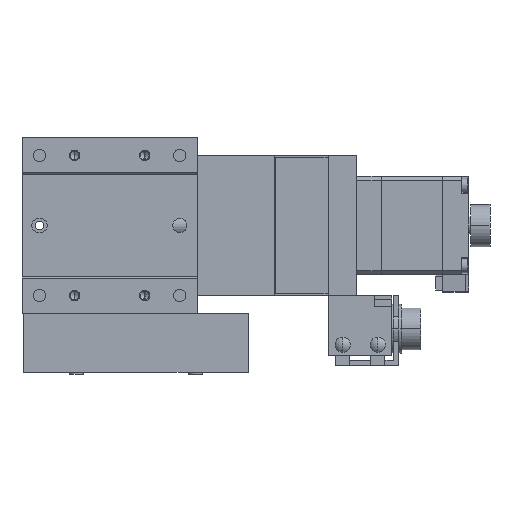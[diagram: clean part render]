
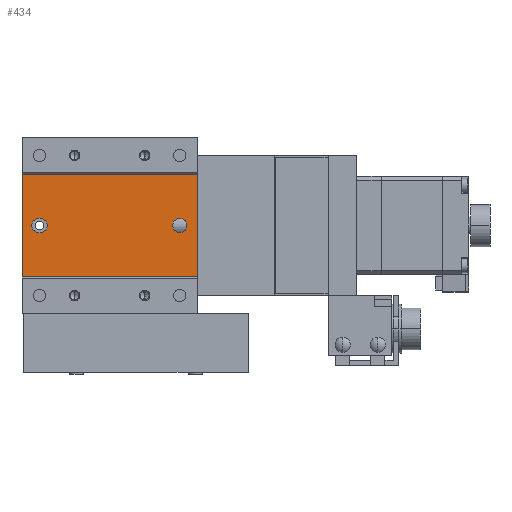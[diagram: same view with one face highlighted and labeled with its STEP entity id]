
A CAD part, front view. The second image highlights one B-rep face of the part: STEP entity #434.
In plain terms, the highlighted planar face has unit normal (0, -1, 0).
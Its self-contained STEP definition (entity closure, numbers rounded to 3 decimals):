
#434=ADVANCED_FACE('',(#1249,#1250,#1251),#1252,.F.);
#1249=FACE_BOUND('',#2711,.T.);
#1250=FACE_OUTER_BOUND('',#2712,.T.);
#1251=FACE_BOUND('',#2713,.T.);
#1252=PLANE('',#2714);
#2711=EDGE_LOOP('',(#4868,#4869,#4870,#4871));
#2712=EDGE_LOOP('',(#4872,#4873,#4874,#4875));
#2713=EDGE_LOOP('',(#4876,#4877,#4878));
#2714=AXIS2_PLACEMENT_3D('',#4879,#4880,#4881);
#4868=ORIENTED_EDGE('',*,*,#9800,.F.);
#4869=ORIENTED_EDGE('',*,*,#9801,.F.);
#4870=ORIENTED_EDGE('',*,*,#9802,.F.);
#4871=ORIENTED_EDGE('',*,*,#9803,.F.);
#4872=ORIENTED_EDGE('',*,*,#9785,.T.);
#4873=ORIENTED_EDGE('',*,*,#9804,.F.);
#4874=ORIENTED_EDGE('',*,*,#9805,.F.);
#4875=ORIENTED_EDGE('',*,*,#9806,.T.);
#4876=ORIENTED_EDGE('',*,*,#9690,.F.);
#4877=ORIENTED_EDGE('',*,*,#9689,.F.);
#4878=ORIENTED_EDGE('',*,*,#9807,.F.);
#4879=CARTESIAN_POINT('',(25.0,0.35,14.65));
#4880=DIRECTION('',(-0.0,1.0,0.0));
#4881=DIRECTION('',(1.0,0.0,0.0));
#9689=EDGE_CURVE('',#11590,#11592,#11593,.F.);
#9690=EDGE_CURVE('',#11592,#11586,#11594,.F.);
#9785=EDGE_CURVE('',#11771,#11769,#11772,.T.);
#9800=EDGE_CURVE('',#11799,#11800,#11801,.F.);
#9801=EDGE_CURVE('',#11802,#11799,#11803,.T.);
#9802=EDGE_CURVE('',#11804,#11802,#11805,.F.);
#9803=EDGE_CURVE('',#11800,#11804,#11806,.T.);
#9804=EDGE_CURVE('',#11807,#11769,#11808,.T.);
#9805=EDGE_CURVE('',#11809,#11807,#11810,.T.);
#9806=EDGE_CURVE('',#11809,#11771,#11811,.T.);
#9807=EDGE_CURVE('',#11586,#11590,#11812,.F.);
#11586=VERTEX_POINT('',#14599);
#11590=VERTEX_POINT('',#14604);
#11592=VERTEX_POINT('',#14607);
#11593=CIRCLE('',#14608,2.0);
#11594=CIRCLE('',#14609,2.0);
#11769=VERTEX_POINT('',#14838);
#11771=VERTEX_POINT('',#14841);
#11772=LINE('',#14842,#14843);
#11799=VERTEX_POINT('',#14883);
#11800=VERTEX_POINT('',#14884);
#11801=CIRCLE('',#14885,2.0);
#11802=VERTEX_POINT('',#14886);
#11803=LINE('',#14887,#14888);
#11804=VERTEX_POINT('',#14889);
#11805=CIRCLE('',#14890,2.0);
#11806=LINE('',#14891,#14892);
#11807=VERTEX_POINT('',#14893);
#11808=LINE('',#14894,#14895);
#11809=VERTEX_POINT('',#14896);
#11810=LINE('',#14897,#14898);
#11811=LINE('',#14899,#14900);
#11812=CIRCLE('',#14901,2.0);
#14599=CARTESIAN_POINT('',(18.0,0.35,0.));
#14604=CARTESIAN_POINT('',(22.0,0.35,0.));
#14607=CARTESIAN_POINT('',(20.0,0.35,2.0));
#14608=AXIS2_PLACEMENT_3D('',#18493,#18494,#18495);
#14609=AXIS2_PLACEMENT_3D('',#18496,#18497,#18498);
#14838=CARTESIAN_POINT('',(-25.0,0.35,-14.65));
#14841=CARTESIAN_POINT('',(-25.0,0.35,14.65));
#14842=CARTESIAN_POINT('',(-25.0,0.35,14.65));
#14843=VECTOR('',#18671,1000.0);
#14883=CARTESIAN_POINT('',(-20.25,0.35,2.0));
#14884=CARTESIAN_POINT('',(-20.25,0.35,-2.0));
#14885=AXIS2_PLACEMENT_3D('',#18688,#18689,#18690);
#14886=CARTESIAN_POINT('',(-19.75,0.35,2.0));
#14887=CARTESIAN_POINT('',(25.0,0.35,2.0));
#14888=VECTOR('',#18691,1000.0);
#14889=CARTESIAN_POINT('',(-19.75,0.35,-2.0));
#14890=AXIS2_PLACEMENT_3D('',#18692,#18693,#18694);
#14891=CARTESIAN_POINT('',(25.0,0.35,-2.0));
#14892=VECTOR('',#18695,1000.0);
#14893=CARTESIAN_POINT('',(25.0,0.35,-14.65));
#14894=CARTESIAN_POINT('',(25.0,0.35,-14.65));
#14895=VECTOR('',#18696,1000.0);
#14896=CARTESIAN_POINT('',(25.0,0.35,14.65));
#14897=CARTESIAN_POINT('',(25.0,0.35,14.65));
#14898=VECTOR('',#18697,1000.0);
#14899=CARTESIAN_POINT('',(25.0,0.35,14.65));
#14900=VECTOR('',#18698,1000.0);
#14901=AXIS2_PLACEMENT_3D('',#18699,#18700,#18701);
#18493=CARTESIAN_POINT('',(20.0,0.35,0.0));
#18494=DIRECTION('',(0.0,1.0,0.0));
#18495=DIRECTION('',(0.0,0.0,1.0));
#18496=CARTESIAN_POINT('',(20.0,0.35,0.0));
#18497=DIRECTION('',(0.0,1.0,0.0));
#18498=DIRECTION('',(0.0,0.0,1.0));
#18671=DIRECTION('',(0.0,0.0,-1.0));
#18688=CARTESIAN_POINT('',(-20.25,0.35,0.0));
#18689=DIRECTION('',(0.0,1.0,0.0));
#18690=DIRECTION('',(0.0,0.0,1.0));
#18691=DIRECTION('',(-1.0,0.0,0.0));
#18692=CARTESIAN_POINT('',(-19.75,0.35,0.0));
#18693=DIRECTION('',(0.0,1.0,0.0));
#18694=DIRECTION('',(0.0,0.0,1.0));
#18695=DIRECTION('',(1.0,0.0,0.0));
#18696=DIRECTION('',(-1.0,0.0,0.0));
#18697=DIRECTION('',(0.0,0.0,-1.0));
#18698=DIRECTION('',(-1.0,0.0,0.0));
#18699=CARTESIAN_POINT('',(20.0,0.35,0.0));
#18700=DIRECTION('',(0.0,1.0,0.0));
#18701=DIRECTION('',(0.0,0.0,1.0));
